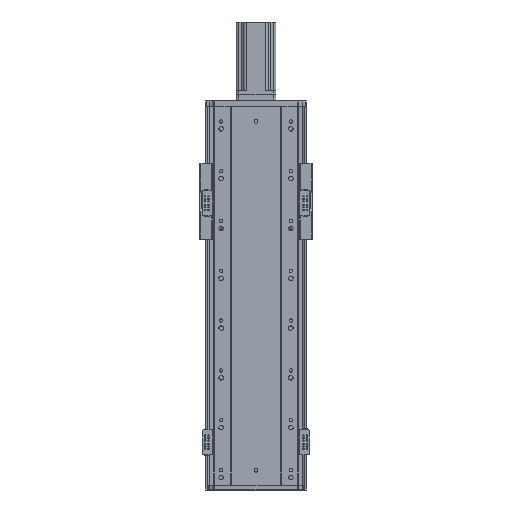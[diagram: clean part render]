
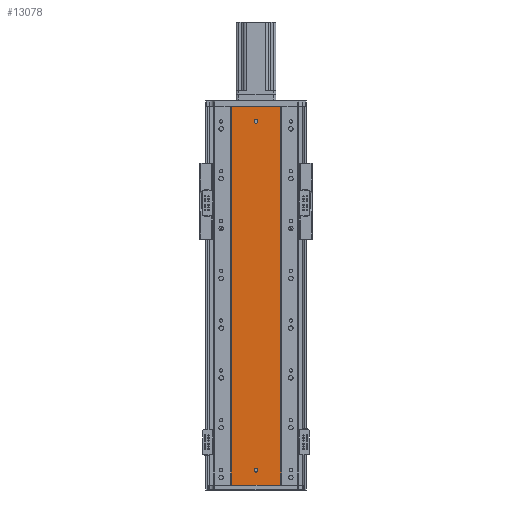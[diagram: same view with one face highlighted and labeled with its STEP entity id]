
A CAD part, front view. The second image highlights one B-rep face of the part: STEP entity #13078.
In plain terms, the highlighted planar face has unit normal (0, -1, 0).
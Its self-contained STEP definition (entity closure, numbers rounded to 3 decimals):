
#190 = VECTOR ( 'NONE', #2033, 1000. ) ;
#212 = CIRCLE ( 'NONE', #9646, 4. ) ;
#216 = LINE ( 'NONE', #2038, #190 ) ;
#220 = VECTOR ( 'NONE', #2086, 1000. ) ;
#224 = LINE ( 'NONE', #2096, #220 ) ;
#245 = CIRCLE ( 'NONE', #9647, 4. ) ;
#2033 = DIRECTION ( 'NONE',  ( 1., 0., 0. ) ) ;
#2038 = CARTESIAN_POINT ( 'NONE',  ( 0., 79.476, 0. ) ) ;
#2052 = CARTESIAN_POINT ( 'NONE',  ( 86.97, 79.476, 506.667 ) ) ;
#2070 = CARTESIAN_POINT ( 'NONE',  ( 86.97, 79.476, 253.333 ) ) ;
#2074 = CARTESIAN_POINT ( 'NONE',  ( 86.97, 79.476, 760. ) ) ;
#2075 = CARTESIAN_POINT ( 'NONE',  ( 86.97, 79.476, 0. ) ) ;
#2086 = DIRECTION ( 'NONE',  ( 1., 0., 0. ) ) ;
#2087 = CARTESIAN_POINT ( 'NONE',  ( 185.97, 79.476, 253.333 ) ) ;
#2091 = DIRECTION ( 'NONE',  ( 0., 0., -1. ) ) ;
#2093 = DIRECTION ( 'NONE',  ( 0., -1., 0. ) ) ;
#2096 = CARTESIAN_POINT ( 'NONE',  ( 0., 79.476, 760. ) ) ;
#2106 = CARTESIAN_POINT ( 'NONE',  ( 185.97, 79.476, 760. ) ) ;
#2107 = CARTESIAN_POINT ( 'NONE',  ( 185.97, 79.476, 0. ) ) ;
#2109 = CARTESIAN_POINT ( 'NONE',  ( 185.97, 79.476, 506.667 ) ) ;
#2113 = CARTESIAN_POINT ( 'NONE',  ( 136.47, 79.476, 730. ) ) ;
#2124 = DIRECTION ( 'NONE',  ( 0., 0., -1. ) ) ;
#2146 = DIRECTION ( 'NONE',  ( 0., -1., 0. ) ) ;
#2153 = CARTESIAN_POINT ( 'NONE',  ( 136.47, 79.476, 30. ) ) ;
#3916 = B_SPLINE_CURVE_WITH_KNOTS ( 'NONE', 3,
 ( #2106, #2109, #2087, #2107 ),
 .UNSPECIFIED., .F., .F.,
 ( 4, 4 ),
 ( 0., 1. ),
 .UNSPECIFIED. ) ;
#3919 = B_SPLINE_CURVE_WITH_KNOTS ( 'NONE', 3,
 ( #2074, #2052, #2070, #2075 ),
 .UNSPECIFIED., .F., .F.,
 ( 4, 4 ),
 ( 0., 1. ),
 .UNSPECIFIED. ) ;
#5487 = EDGE_CURVE ( 'NONE', #25542, #25486, #17749, .T. ) ;
#5503 = EDGE_CURVE ( 'NONE', #25500, #25540, #17779, .T. ) ;
#6376 = EDGE_CURVE ( 'NONE', #8399, #8411, #216, .T. ) ;
#6392 = EDGE_CURVE ( 'NONE', #8374, #8399, #3919, .T. ) ;
#6399 = EDGE_CURVE ( 'NONE', #25486, #25542, #212, .T. ) ;
#6403 = EDGE_CURVE ( 'NONE', #8374, #8361, #224, .T. ) ;
#6404 = EDGE_CURVE ( 'NONE', #8361, #8411, #3916, .T. ) ;
#6415 = EDGE_CURVE ( 'NONE', #25540, #25500, #245, .T. ) ;
#8361 = VERTEX_POINT ( 'NONE', #19778 ) ;
#8374 = VERTEX_POINT ( 'NONE', #19724 ) ;
#8399 = VERTEX_POINT ( 'NONE', #19799 ) ;
#8411 = VERTEX_POINT ( 'NONE', #19870 ) ;
#9439 = AXIS2_PLACEMENT_3D ( 'NONE', #19246, #19267, #19259 ) ;
#9445 = AXIS2_PLACEMENT_3D ( 'NONE', #19166, #19125, #19143 ) ;
#9646 = AXIS2_PLACEMENT_3D ( 'NONE', #2113, #2093, #2091 ) ;
#9647 = AXIS2_PLACEMENT_3D ( 'NONE', #2153, #2146, #2124 ) ;
#10166 = AXIS2_PLACEMENT_3D ( 'NONE', #36935, #36938, #36927 ) ;
#10672 = EDGE_LOOP ( 'NONE', ( #16922, #16979 ) ) ;
#10703 = EDGE_LOOP ( 'NONE', ( #16942, #16926 ) ) ;
#10709 = EDGE_LOOP ( 'NONE', ( #16870, #16965, #16867, #16952 ) ) ;
#13078 = ADVANCED_FACE ( 'NONE', ( #14280, #14289, #14320 ), #36917, .F. ) ;
#14280 = FACE_BOUND ( 'NONE', #10672, .T. ) ;
#14289 = FACE_BOUND ( 'NONE', #10703, .T. ) ;
#14320 = FACE_OUTER_BOUND ( 'NONE', #10709, .T. ) ;
#16867 = ORIENTED_EDGE ( 'NONE', *, *, #6403, .F. ) ;
#16870 = ORIENTED_EDGE ( 'NONE', *, *, #6376, .T. ) ;
#16922 = ORIENTED_EDGE ( 'NONE', *, *, #6399, .F. ) ;
#16926 = ORIENTED_EDGE ( 'NONE', *, *, #5503, .F. ) ;
#16942 = ORIENTED_EDGE ( 'NONE', *, *, #6415, .F. ) ;
#16952 = ORIENTED_EDGE ( 'NONE', *, *, #6392, .T. ) ;
#16965 = ORIENTED_EDGE ( 'NONE', *, *, #6404, .F. ) ;
#16979 = ORIENTED_EDGE ( 'NONE', *, *, #5487, .F. ) ;
#17749 = CIRCLE ( 'NONE', #9445, 4. ) ;
#17779 = CIRCLE ( 'NONE', #9439, 4. ) ;
#19125 = DIRECTION ( 'NONE',  ( 0., -1., 0. ) ) ;
#19143 = DIRECTION ( 'NONE',  ( 0., 0., -1. ) ) ;
#19166 = CARTESIAN_POINT ( 'NONE',  ( 136.47, 79.476, 730. ) ) ;
#19246 = CARTESIAN_POINT ( 'NONE',  ( 136.47, 79.476, 30. ) ) ;
#19259 = DIRECTION ( 'NONE',  ( 0., 0., -1. ) ) ;
#19267 = DIRECTION ( 'NONE',  ( 0., -1., 0. ) ) ;
#19724 = CARTESIAN_POINT ( 'NONE',  ( 86.97, 79.476, 760. ) ) ;
#19778 = CARTESIAN_POINT ( 'NONE',  ( 185.97, 79.476, 760. ) ) ;
#19799 = CARTESIAN_POINT ( 'NONE',  ( 86.97, 79.476, 0. ) ) ;
#19870 = CARTESIAN_POINT ( 'NONE',  ( 185.97, 79.476, 0. ) ) ;
#25486 = VERTEX_POINT ( 'NONE', #32681 ) ;
#25500 = VERTEX_POINT ( 'NONE', #32650 ) ;
#25540 = VERTEX_POINT ( 'NONE', #32622 ) ;
#25542 = VERTEX_POINT ( 'NONE', #32683 ) ;
#32622 = CARTESIAN_POINT ( 'NONE',  ( 136.47, 79.476, 26. ) ) ;
#32650 = CARTESIAN_POINT ( 'NONE',  ( 136.47, 79.476, 34. ) ) ;
#32681 = CARTESIAN_POINT ( 'NONE',  ( 136.47, 79.476, 726. ) ) ;
#32683 = CARTESIAN_POINT ( 'NONE',  ( 136.47, 79.476, 734. ) ) ;
#36917 = PLANE ( 'NONE',  #10166 ) ;
#36927 = DIRECTION ( 'NONE',  ( 0., 0., 1. ) ) ;
#36935 = CARTESIAN_POINT ( 'NONE',  ( 0., 79.476, 760. ) ) ;
#36938 = DIRECTION ( 'NONE',  ( 0., 1., 0. ) ) ;
